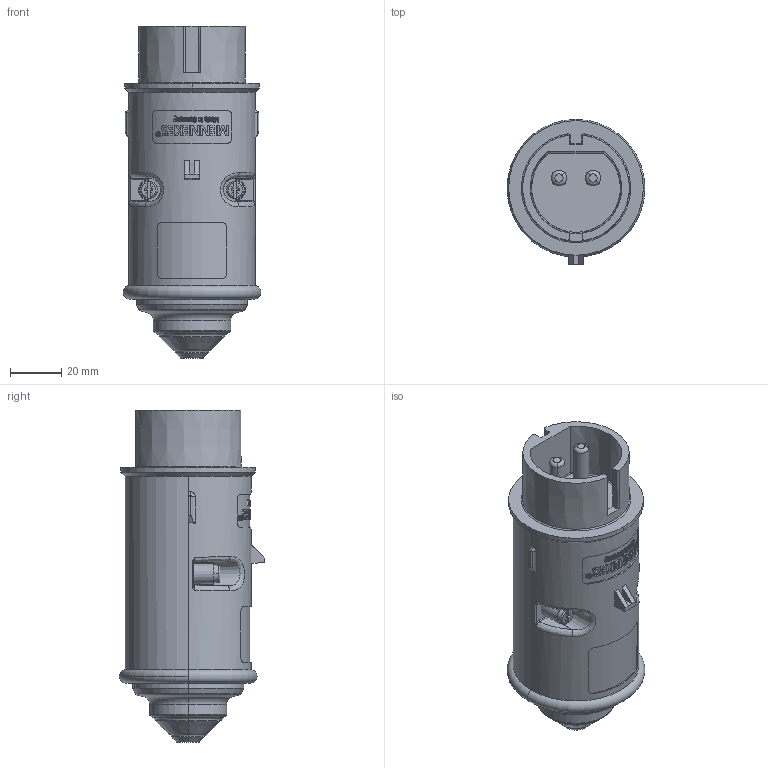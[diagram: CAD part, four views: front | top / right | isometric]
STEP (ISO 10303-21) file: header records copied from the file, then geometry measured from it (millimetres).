
FILE_DESCRIPTION((''),'2;1');
FILE_NAME('1115299_ASM_SW0001','2018-02-08T',('gisse'),('MENNEKES'),'PRO/ENGINEER BY PARAMETRIC TECHNOLOGY CORPORATION, 2015440','PRO/ENGINEER BY PARAMETRIC TECHNOLOGY CORPORATION, 2015440','');
FILE_SCHEMA(('AUTOMOTIVE_DESIGN { 1 0 10303 214 1 1 1 1 }'));
Length unit declared in the file: millimetre
Products named in the file (1): 1115299_ASM_SW0001
Bounding box: 54 x 57 x 130.1 mm (x, y, z)
Volume: 188068.5 mm3; surface area: 26752.6 mm2
Topology: 1 solids, 1 shells, 593 faces, 1560 edges, 1013 vertices
Faces by surface type: plane 312, extrusion 106, cylinder 86, bspline 32, cone 30, torus 23, sphere 4
Entity records: 29833 total; most frequent: CARTESIAN_POINT 8681, ORIENTED_EDGE 3120, DIRECTION 2356, EDGE_CURVE 1560, FILL_AREA_STYLE_COLOUR 1088, FILL_AREA_STYLE 1088, SURFACE_STYLE_FILL_AREA 1088, SURFACE_SIDE_STYLE 1088
